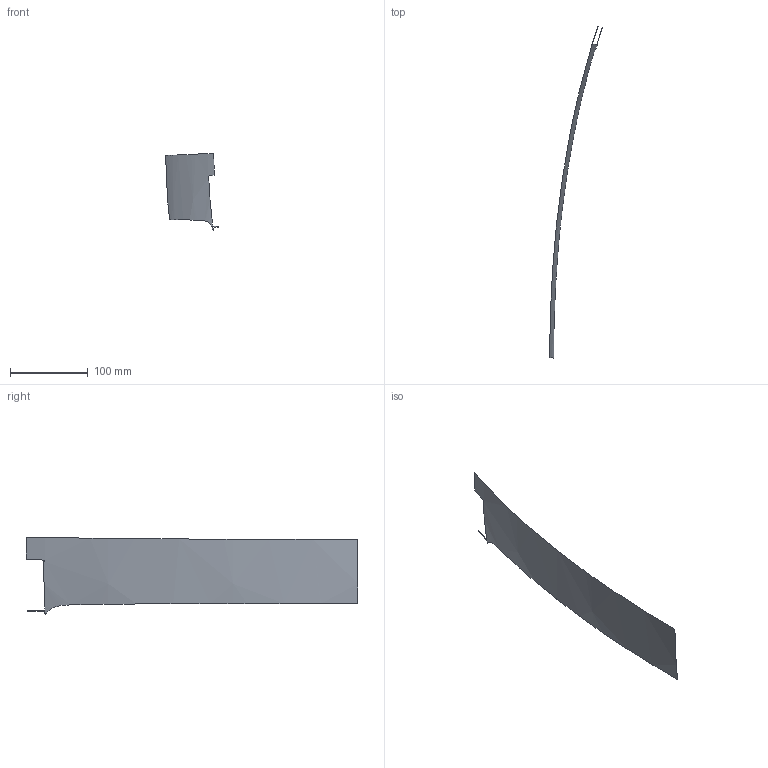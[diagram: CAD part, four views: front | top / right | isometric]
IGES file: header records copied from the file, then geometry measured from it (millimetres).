
Start section: START RECORD GO HERE
Global section: file name: s7.igs; native system: IBM CATIA IGES - CATIA SOLUTIONS V4RELEASE 1.9 REFRESH 01; preprocessor: CATIA SOLUTIONS V4RELEASE 1.9 REFRESH 01; author: cky; date: 990510.133752; units: millimetre
Bounding box: 67.93 x 427.02 x 99.6 mm (x, y, z)
Surface area: 35141.8 mm2 (no closed solid volume)
Topology: 0 solids, 0 shells, 1 faces, 52 edges, 52 vertices
Faces by surface type: bspline 1
